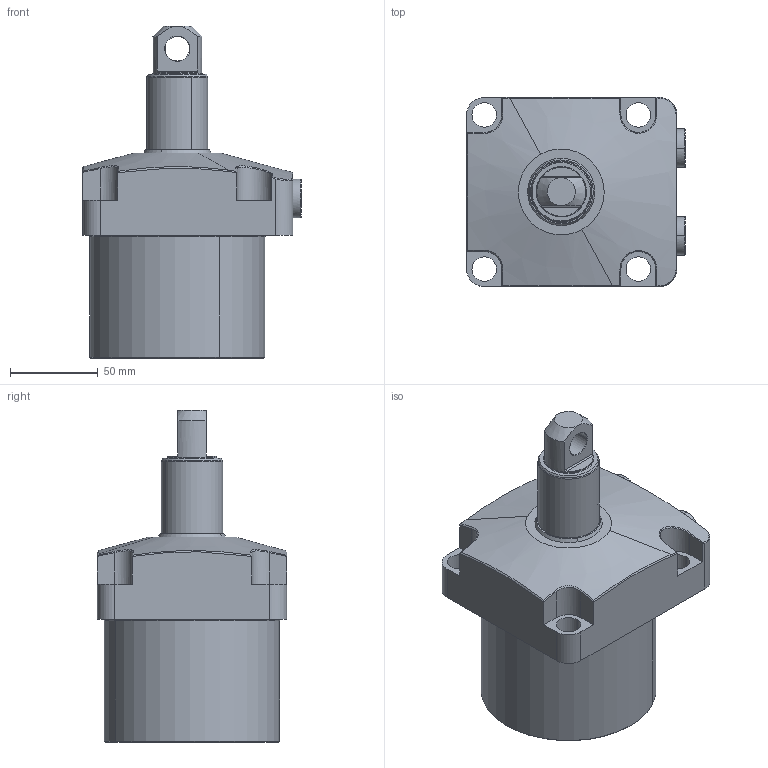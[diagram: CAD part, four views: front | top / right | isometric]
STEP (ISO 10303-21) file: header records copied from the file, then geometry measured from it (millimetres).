
FILE_DESCRIPTION(('CATIA V5 STEP Exchange'),'2;1');
FILE_NAME('C:\Users\kong\Desktop\GCD-25-40X.stp','2014-11-04T06:48:17+00:00',('none'),('none'),'CATIA Version 5 Release 17 (IN-10)','CATIA V5 STEP AP203','none');
FILE_SCHEMA(('CONFIG_CONTROL_DESIGN'));
Length unit declared in the file: millimetre
Products named in the file (1): Product2
Assembly tree (4 placements, depth 2):
  Product2
    #56
    #5379  x2
    #6055
Bounding box: 124.81 x 108 x 189.5 mm (x, y, z)
Volume: 1062467.7 mm3; surface area: 86742.4 mm2
Topology: 4 solids, 4 shells, 169 faces, 416 edges, 272 vertices
Faces by surface type: plane 55, cylinder 52, cone 30, bspline 22, torus 10
Entity records: 6877 total; most frequent: CARTESIAN_POINT 3651, ORIENTED_EDGE 740, DIRECTION 449, EDGE_CURVE 370, VERTEX_POINT 242, AXIS2_PLACEMENT_3D 223, EDGE_LOOP 170, ADVANCED_FACE 147
